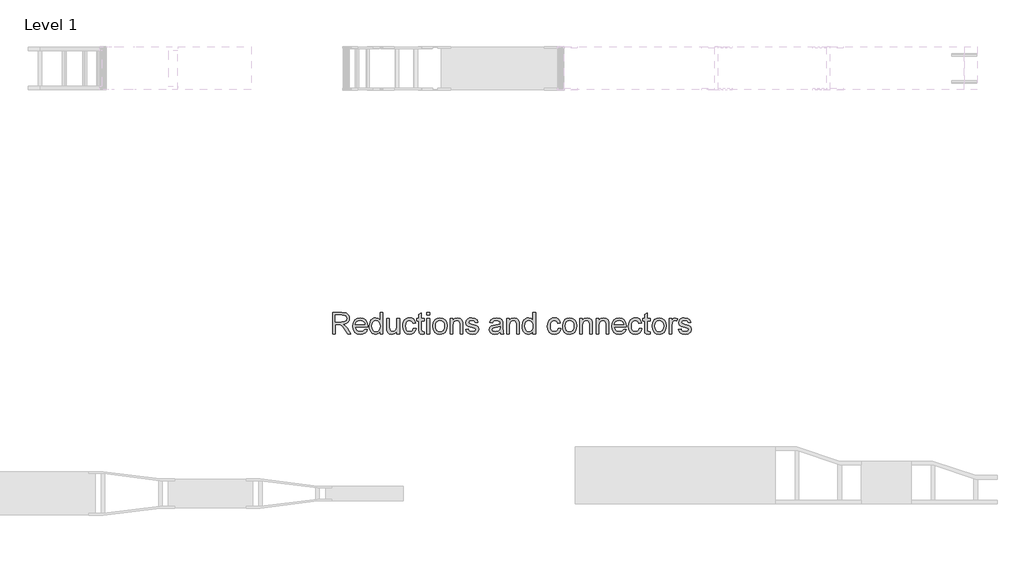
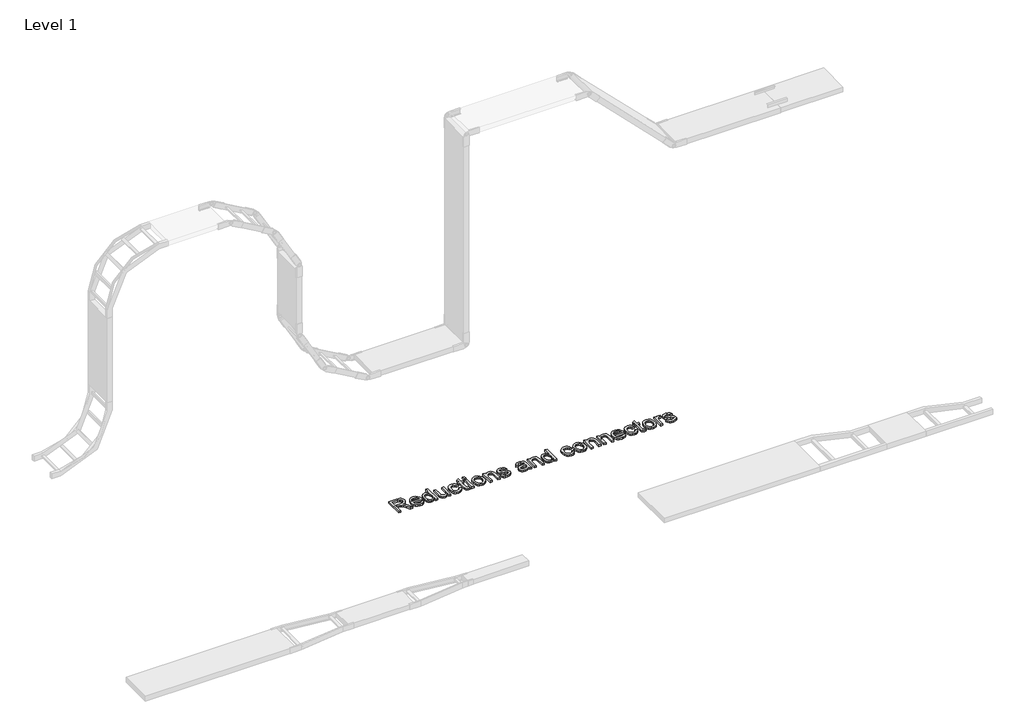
# One storey, part 38 of 106: 1 proxy.
"""IFC4 building model written with IfcOpenShell, lengths in millimetres."""

from ifc_helpers import new_model, si_unit, origin, origin_with_axes, place, context, project, spatial, polyline, outline, extrude, element, save

model = new_model("IFC4")

# Units and contexts
model_context = context("Model", 3, world=origin())
ifc_project = project(units=[si_unit("LENGTHUNIT", "METRE", prefix="MILLI")], contexts=[model_context])

# Site, building, storey
site = spatial("IfcSite", under=ifc_project)
building = spatial("IfcBuilding", under=site)
storey = spatial("IfcBuildingStorey", under=building, Name="Level 1", Elevation=0.0)

# Proxy
placement = place(None, origin())
element("IfcBuildingElementProxy", 1, Name="150mm Arial 2", ObjectType="150mm Arial 2", at=placement, inside=storey, context=model_context, shape_type="SweptSolid", body=[
    extrude(outline(polyline([(28768.5420892, 22747.8476348), (28768.5420892, 22898.5321), (28833.4732613, 22898.5321), (28863.6211908, 22894.467004), (28872.9010141, 22888.8384094), (28880.1023042, 22880.0828179), (28884.7238218, 22869.2257006), (28886.2643276, 22857.2925283), (28883.7121463, 22842.4484898), (28876.0556023, 22830.1428371), (28863.0647693, 22821.1205312), (28844.5097212, 22816.1265331), (28855.2150872, 22808.0699174), (28870.48219, 22788.6825362), (28895.6085303, 22747.8476348), (28873.7195516, 22747.8476348), (28854.1114412, 22779.0808162), (28839.9479844, 22799.7557843), (28829.9967765, 22809.5230513), (28821.0388499, 22813.1099007), (28810.1127546, 22813.7720883), (28787.3776473, 22813.7720883), (28787.3776473, 22747.8476348), (28768.5420892, 22747.8476348)]), holes=[polyline([(28787.3776473, 22832.6076465), (28829.536924, 22832.6076465), (28851.0396266, 22835.2747909), (28863.2533088, 22843.8096532), (28867.4287695, 22856.5935526), (28865.4376082, 22865.7814054), (28859.4641243, 22873.1850305), (28849.186421, 22878.068664), (28834.2826017, 22879.6965419), (28787.3776473, 22879.6965419), (28787.3776473, 22832.6076465)])]), origin_with_axes(), (0.0, 0.0, 1.0), 15.0),
    extrude(outline(polyline([(28994.3480578, 22780.8098615), (29012.815734, 22778.4554168), (29006.1616684, 22764.5402803), (28995.5436743, 22754.1384169), (28981.200875, 22747.6544967), (28963.3723938, 22745.49319), (28941.2718829, 22749.2225937), (28924.2665377, 22760.4108049), (28913.4232159, 22778.3312566), (28909.8087753, 22802.2573819), (28913.4600041, 22826.988249), (28924.4136905, 22845.4835163), (28941.1891095, 22857.0166168), (28962.305536, 22860.8609837), (28982.7643735, 22857.0258139), (28999.1121296, 22845.5203045), (29009.8312913, 22827.0618254), (29013.4043452, 22802.3677465), (29013.2939806, 22797.2909749), (28928.6443335, 22797.2909749), (28931.9046876, 22783.1918975), (28939.4784582, 22772.8268223), (28950.409152, 22766.4532667), (28963.7402758, 22764.3287482), (28982.207952, 22768.2650855), (28994.3480578, 22780.8098615)]), holes=[polyline([(28928.6443335, 22816.1265331), (28994.568787, 22816.1265331), (28992.0212042, 22826.0777411), (28987.0272061, 22833.1962577), (28976.0459285, 22839.8181336), (28962.2319596, 22842.0254255), (28949.5354323, 22840.2641905), (28939.0369998, 22834.9804853), (28931.7391407, 22826.7445272), (28928.6443335, 22816.1265331)])]), origin_with_axes(), (0.0, 0.0, 1.0), 15.0),
    extrude(outline(polyline([(29100.5188016, 22747.8476348), (29100.5188016, 22765.6163351), (29088.056799, 22750.5239763), (29070.8307246, 22745.49319), (29058.6538306, 22747.3142059), (29047.5070061, 22752.7772535), (29038.0708329, 22761.5006553), (29031.0258927, 22773.1027337), (29026.6388999, 22787.1144392), (29025.176569, 22803.0667223), (29030.5660402, 22833.0491049), (29037.2982807, 22844.9408904), (29046.7160598, 22853.6872848), (29058.1066061, 22859.067559), (29070.7571482, 22860.8609837), (29088.1211784, 22855.7290299), (29100.5188016, 22842.3933075), (29100.5188016, 22898.5321), (29119.3543598, 22898.5321), (29119.3543598, 22747.8476348), (29100.5188016, 22747.8476348)]), holes=[polyline([(29044.0121271, 22803.1402987), (29046.1366457, 22786.1027638), (29052.5102012, 22773.9856505), (29061.7716305, 22766.7429738), (29072.55977, 22764.3287482), (29083.343311, 22766.6326092), (29092.3702154, 22773.5441921), (29098.4816551, 22785.1922558), (29100.5188016, 22801.7055589), (29098.4448669, 22819.7593678), (29092.2230626, 22832.2765527), (29082.9662319, 22839.5882073), (29071.7872178, 22842.0254255), (29060.8887137, 22839.6847764), (29051.9583782, 22832.6628288), (29045.9986899, 22820.6008979), (29044.0121271, 22803.1402987)])]), origin_with_axes(), (0.0, 0.0, 1.0), 15.0),
    extrude(outline(polyline([(29218.2410401, 22747.8476348), (29218.2410401, 22766.8671339), (29203.4889721, 22750.836676), (29184.2487437, 22745.49319), (29166.5352256, 22749.2455864), (29154.3215434, 22758.6633654), (29148.711343, 22772.5325167), (29147.607697, 22790.0436996), (29147.607697, 22858.5065389), (29166.4432551, 22858.5065389), (29166.4432551, 22798.9096557), (29167.5836893, 22779.7062156), (29175.0332997, 22768.4306324), (29189.0679978, 22764.3287482), (29204.7949531, 22768.5226029), (29215.1876195, 22779.9453389), (29218.2410401, 22800.9330067), (29218.2410401, 22858.5065389), (29237.0765982, 22858.5065389), (29237.0765982, 22747.8476348), (29218.2410401, 22747.8476348)])), origin_with_axes(), (0.0, 0.0, 1.0), 15.0),
    extrude(outline(polyline([(29333.6088338, 22787.8731959), (29352.4443919, 22785.5187511), (29347.1928764, 22768.7663247), (29337.3244419, 22756.1065856), (29323.7679904, 22748.1465389), (29307.4524239, 22745.49319), (29287.4166507, 22749.1950026), (29271.7494763, 22760.3004403), (29261.6373199, 22778.3220596), (29258.2666011, 22802.7724167), (29259.7059394, 22819.5340401), (29264.0239544, 22834.0607803), (29271.2896238, 22845.7916175), (29281.5719255, 22854.1655314), (29293.8729797, 22859.1871206), (29307.1949065, 22860.8609837), (29323.1104013, 22858.5617212), (29335.8345198, 22851.6639338), (29344.9625918, 22840.5355035), (29350.0899471, 22825.5443122), (29331.254389, 22823.1898674), (29322.5171916, 22837.2981419), (29307.3420593, 22842.0254255), (29295.1697638, 22839.6985719), (29285.5082629, 22832.7180111), (29279.2036852, 22820.7066639), (29277.1021593, 22803.2874515), (29279.1576999, 22785.6337142), (29285.3243219, 22773.5809803), (29294.8110788, 22766.6418062), (29306.8270245, 22764.3287482), (29316.5804959, 22765.772685), (29324.5773308, 22770.1044955), (29330.3944648, 22777.4345442), (29333.6088338, 22787.8731959)])), origin_with_axes(), (0.0, 0.0, 1.0), 15.0),
    extrude(outline(polyline([(29408.9510664, 22763.556196), (29411.3055111, 22747.2958118), (29397.2156307, 22745.49319), (29381.4334931, 22748.620187), (29373.5608184, 22756.8239555), (29371.2799501, 22778.1978994), (29371.2799501, 22839.6709808), (29357.1532814, 22839.6709808), (29357.1532814, 22858.5065389), (29371.2799501, 22858.5065389), (29371.2799501, 22885.3987128), (29390.1155082, 22896.4719608), (29390.1155082, 22858.5065389), (29408.9510664, 22858.5065389), (29408.9510664, 22839.6709808), (29390.1155082, 22839.6709808), (29390.1155082, 22778.7497224), (29391.1087896, 22769.0376377), (29394.3277571, 22765.597941), (29400.7472979, 22764.3287482), (29408.9510664, 22763.556196)])), origin_with_axes(), (0.0, 0.0, 1.0), 15.0),
    extrude(outline(polyline([(29427.7866245, 22879.6965419), (29427.7866245, 22898.5321), (29446.6221827, 22898.5321), (29446.6221827, 22879.6965419), (29427.7866245, 22879.6965419)])), origin_with_axes(), (0.0, 0.0, 1.0), 15.0),
    extrude(outline(polyline([(29427.7866245, 22747.8476348), (29427.7866245, 22858.5065389), (29446.6221827, 22858.5065389), (29446.6221827, 22747.8476348), (29427.7866245, 22747.8476348)])), origin_with_axes(), (0.0, 0.0, 1.0), 15.0),
    extrude(outline(polyline([(29470.1666304, 22803.1770869), (29474.2409235, 22829.8577286), (29486.4638027, 22848.6105133), (29501.5653587, 22857.7983661), (29519.6467587, 22860.8609837), (29539.4342115, 22857.13158), (29555.2393417, 22845.9433688), (29565.5998184, 22828.179267), (29569.0533107, 22804.7221912), (29567.5266004, 22785.693495), (29562.9464695, 22771.2081415), (29555.4462754, 22760.3602211), (29545.1593751, 22752.2438246), (29532.9410943, 22747.1808487), (29519.6467587, 22745.49319), (29499.6201826, 22749.2087982), (29483.8334465, 22760.3556226), (29473.5833344, 22778.492205), (29470.1666304, 22803.1770869)]), holes=[polyline([(29489.0021885, 22803.2138751), (29491.1818893, 22786.1671431), (29497.7209918, 22774.0224387), (29507.5618352, 22766.7521708), (29519.6467587, 22764.3287482), (29531.6765, 22766.7659664), (29541.4989492, 22774.077621), (29548.0380517, 22786.3832738), (29550.2177525, 22803.8024862), (29548.0242561, 22820.3525775), (29541.4437669, 22832.331735), (29531.6075221, 22839.6020029), (29519.6467587, 22842.0254255), (29507.5618352, 22839.6112), (29497.7209918, 22832.3685232), (29491.1818893, 22820.25141), (29489.0021885, 22803.2138751)])]), origin_with_axes(), (0.0, 0.0, 1.0), 15.0),
    extrude(outline(polyline([(29590.2433136, 22747.8476348), (29590.2433136, 22858.5065389), (29609.0788717, 22858.5065389), (29609.0788717, 22843.0554951), (29623.4814519, 22856.4096116), (29643.1447445, 22860.8609837), (29660.931839, 22857.2741342), (29673.0719448, 22847.8563552), (29678.7189334, 22834.0055981), (29679.7122148, 22815.7954393), (29679.7122148, 22747.8476348), (29660.8766567, 22747.8476348), (29660.8766567, 22813.2570535), (29658.7061529, 22829.9221079), (29651.0358133, 22838.7328817), (29638.1047612, 22842.0254255), (29627.0728998, 22840.1768185), (29617.6689163, 22834.6309974), (29611.2263829, 22823.9164343), (29609.0788717, 22806.5616012), (29609.0788717, 22747.8476348), (29590.2433136, 22747.8476348)])), origin_with_axes(), (0.0, 0.0, 1.0), 15.0),
    extrude(outline(polyline([(29698.547773, 22780.8098615), (29717.3833311, 22783.1643063), (29720.3539782, 22775.1076906), (29726.1021344, 22769.1847905), (29746.0781267, 22764.3287482), (29765.2815669, 22768.7801203), (29771.5355608, 22779.227969), (29769.9628653, 22784.028829), (29765.2447787, 22787.6892549), (29745.8573975, 22793.060332), (29717.4936957, 22802.275776), (29705.1144666, 22813.0363243), (29700.9022177, 22828.2298507), (29704.2867321, 22842.2645488), (29713.5205702, 22852.988309), (29725.4951291, 22858.5617212), (29741.700331, 22860.8609837), (29764.6193793, 22857.1637696), (29779.1875063, 22847.1573794), (29785.6622294, 22830.2532017), (29766.8266713, 22827.8987569), (29759.7449429, 22838.2914233), (29743.171859, 22842.0254255), (29725.1456412, 22838.4569702), (29719.7377759, 22830.1428371), (29721.9818561, 22824.6613954), (29729.0084022, 22820.5043288), (29745.2319982, 22816.4944151), (29772.8783301, 22807.628459), (29785.7174117, 22797.5852805), (29790.371119, 22781.2145317), (29784.9080713, 22763.188314), (29769.1443278, 22750.1101091), (29745.8206093, 22745.49319), (29726.8287013, 22747.7188761), (29712.9687472, 22754.3959343), (29703.716515, 22765.4507882), (29698.547773, 22780.8098615)])), origin_with_axes(), (0.0, 0.0, 1.0), 15.0),
    extrude(outline(polyline([(29941.0555842, 22761.9743034), (29922.7902431, 22749.2087982), (29902.6119157, 22745.49319), (29886.8711648, 22747.7280731), (29875.2598894, 22754.4327225), (29868.099986, 22764.6138567), (29865.7133516, 22777.2781944), (29869.3185951, 22792.1774152), (29878.7915565, 22802.9931459), (29891.980126, 22809.1735634), (29908.2772984, 22812.0062547), (29940.9452196, 22818.4809779), (29941.0555842, 22822.6748326), (29939.7588002, 22831.0809362), (29935.8684481, 22836.580772), (29927.1680389, 22840.6642622), (29915.0463271, 22842.0254255), (29895.9900398, 22838.4017879), (29886.9033545, 22825.5443122), (29868.0677963, 22827.8987569), (29876.2163825, 22846.2928567), (29892.6239195, 22857.0717991), (29917.4743483, 22860.8609837), (29940.3014261, 22857.5132575), (29953.19569, 22849.107154), (29958.9714374, 22836.3232546), (29959.8911423, 22819.8421412), (29959.8911423, 22796.4080581), (29960.8476355, 22763.6849547), (29964.6000319, 22747.8476348), (29945.7644737, 22747.8476348), (29941.0555842, 22761.9743034)]), holes=[polyline([(29941.0555842, 22799.6454197), (29910.6685314, 22793.8696724), (29894.4633295, 22790.8162518), (29887.1240837, 22785.8498449), (29884.5489097, 22778.6025696), (29890.1591102, 22768.4122383), (29906.6218294, 22764.3287482), (29925.6781168, 22768.8353026), (29937.9653754, 22779.7430038), (29940.9452196, 22794.3111308), (29941.0555842, 22799.6454197)])]), origin_with_axes(), (0.0, 0.0, 1.0), 15.0),
    extrude(outline(polyline([(29985.7900348, 22747.8476348), (29985.7900348, 22858.5065389), (30004.625593, 22858.5065389), (30004.625593, 22843.0554951), (30019.0281731, 22856.4096116), (30038.6914657, 22860.8609837), (30056.4785602, 22857.2741342), (30068.618666, 22847.8563552), (30074.2656546, 22834.0055981), (30075.258936, 22815.7954393), (30075.258936, 22747.8476348), (30056.4233779, 22747.8476348), (30056.4233779, 22813.2570535), (30054.2528741, 22829.9221079), (30046.5825345, 22838.7328817), (30033.6514824, 22842.0254255), (30022.619621, 22840.1768185), (30013.2156375, 22834.6309974), (30006.7731041, 22823.9164343), (30004.625593, 22806.5616012), (30004.625593, 22747.8476348), (29985.7900348, 22747.8476348)])), origin_with_axes(), (0.0, 0.0, 1.0), 15.0),
    extrude(outline(polyline([(30169.4367268, 22747.8476348), (30169.4367268, 22765.6163351), (30156.9747242, 22750.5239763), (30139.7486498, 22745.49319), (30127.5717557, 22747.3142059), (30116.4249313, 22752.7772535), (30106.9887581, 22761.5006553), (30099.9438179, 22773.1027337), (30095.5568251, 22787.1144392), (30094.0944942, 22803.0667223), (30099.4839654, 22833.0491049), (30106.2162059, 22844.9408904), (30115.633985, 22853.6872848), (30127.0245313, 22859.067559), (30139.6750734, 22860.8609837), (30157.0391036, 22855.7290299), (30169.4367268, 22842.3933075), (30169.4367268, 22898.5321), (30188.2722849, 22898.5321), (30188.2722849, 22747.8476348), (30169.4367268, 22747.8476348)]), holes=[polyline([(30112.9300523, 22803.1402987), (30115.0545709, 22786.1027638), (30121.4281264, 22773.9856505), (30130.6895557, 22766.7429738), (30141.4776952, 22764.3287482), (30152.2612361, 22766.6326092), (30161.2881406, 22773.5441921), (30167.3995802, 22785.1922558), (30169.4367268, 22801.7055589), (30167.362792, 22819.7593678), (30161.1409878, 22832.2765527), (30151.8841571, 22839.5882073), (30140.705143, 22842.0254255), (30129.8066389, 22839.6847764), (30120.8763034, 22832.6628288), (30114.9166151, 22820.6008979), (30112.9300523, 22803.1402987)])]), origin_with_axes(), (0.0, 0.0, 1.0), 15.0),
    extrude(outline(polyline([(30346.0200845, 22787.8731959), (30364.8556426, 22785.5187511), (30359.6041272, 22768.7663247), (30349.7356926, 22756.1065856), (30336.1792411, 22748.1465389), (30319.8636746, 22745.49319), (30299.8279015, 22749.1950026), (30284.160727, 22760.3004403), (30274.0485706, 22778.3220596), (30270.6778519, 22802.7724167), (30272.1171902, 22819.5340401), (30276.4352051, 22834.0607803), (30283.7008745, 22845.7916175), (30293.9831763, 22854.1655314), (30306.2842305, 22859.1871206), (30319.6061572, 22860.8609837), (30335.521652, 22858.5617212), (30348.2457706, 22851.6639338), (30357.3738426, 22840.5355035), (30362.5011979, 22825.5443122), (30343.6656397, 22823.1898674), (30334.9284423, 22837.2981419), (30319.75331, 22842.0254255), (30307.5810145, 22839.6985719), (30297.9195136, 22832.7180111), (30291.6149359, 22820.7066639), (30289.51341, 22803.2874515), (30291.5689507, 22785.6337142), (30297.7355726, 22773.5809803), (30307.2223296, 22766.6418062), (30319.2382752, 22764.3287482), (30328.9917466, 22765.772685), (30336.9885815, 22770.1044955), (30342.8057155, 22777.4345442), (30346.0200845, 22787.8731959)])), origin_with_axes(), (0.0, 0.0, 1.0), 15.0),
    extrude(outline(polyline([(30376.6278665, 22803.1770869), (30380.7021596, 22829.8577286), (30392.9250389, 22848.6105133), (30408.0265948, 22857.7983661), (30426.1079948, 22860.8609837), (30445.8954476, 22857.13158), (30461.7005779, 22845.9433688), (30472.0610546, 22828.179267), (30475.5145468, 22804.7221912), (30473.9878365, 22785.693495), (30469.4077057, 22771.2081415), (30461.9075115, 22760.3602211), (30451.6206112, 22752.2438246), (30439.4023304, 22747.1808487), (30426.1079948, 22745.49319), (30406.0814187, 22749.2087982), (30390.2946826, 22760.3556226), (30380.0445705, 22778.492205), (30376.6278665, 22803.1770869)]), holes=[polyline([(30395.4634246, 22803.2138751), (30397.6431255, 22786.1671431), (30404.1822279, 22774.0224387), (30414.0230713, 22766.7521708), (30426.1079948, 22764.3287482), (30438.1377361, 22766.7659664), (30447.9601853, 22774.077621), (30454.4992878, 22786.3832738), (30456.6789886, 22803.8024862), (30454.4854922, 22820.3525775), (30447.905003, 22832.331735), (30438.0687582, 22839.6020029), (30426.1079948, 22842.0254255), (30414.0230713, 22839.6112), (30404.1822279, 22832.3685232), (30397.6431255, 22820.25141), (30395.4634246, 22803.2138751)])]), origin_with_axes(), (0.0, 0.0, 1.0), 15.0),
    extrude(outline(polyline([(30496.7045497, 22747.8476348), (30496.7045497, 22858.5065389), (30515.5401079, 22858.5065389), (30515.5401079, 22843.0554951), (30529.942688, 22856.4096116), (30549.6059806, 22860.8609837), (30567.3930751, 22857.2741342), (30579.5331809, 22847.8563552), (30585.1801695, 22834.0055981), (30586.1734509, 22815.7954393), (30586.1734509, 22747.8476348), (30567.3378928, 22747.8476348), (30567.3378928, 22813.2570535), (30565.167389, 22829.9221079), (30557.4970494, 22838.7328817), (30544.5659973, 22842.0254255), (30533.5341359, 22840.1768185), (30524.1301524, 22834.6309974), (30517.687619, 22823.9164343), (30515.5401079, 22806.5616012), (30515.5401079, 22747.8476348), (30496.7045497, 22747.8476348)])), origin_with_axes(), (0.0, 0.0, 1.0), 15.0),
    extrude(outline(polyline([(30612.0723434, 22747.8476348), (30612.0723434, 22858.5065389), (30630.9079015, 22858.5065389), (30630.9079015, 22843.0554951), (30645.3104817, 22856.4096116), (30664.9737743, 22860.8609837), (30682.7608688, 22857.2741342), (30694.9009746, 22847.8563552), (30700.5479632, 22834.0055981), (30701.5412446, 22815.7954393), (30701.5412446, 22747.8476348), (30682.7056865, 22747.8476348), (30682.7056865, 22813.2570535), (30680.5351827, 22829.9221079), (30672.8648431, 22838.7328817), (30659.933791, 22842.0254255), (30648.9019296, 22840.1768185), (30639.4979461, 22834.6309974), (30633.0554127, 22823.9164343), (30630.9079015, 22806.5616012), (30630.9079015, 22747.8476348), (30612.0723434, 22747.8476348)])), origin_with_axes(), (0.0, 0.0, 1.0), 15.0),
    extrude(outline(polyline([(30804.9160853, 22780.8098615), (30823.3837614, 22778.4554168), (30816.7296958, 22764.5402803), (30806.1117017, 22754.1384169), (30791.7689025, 22747.6544967), (30773.9404213, 22745.49319), (30751.8399104, 22749.2225937), (30734.8345652, 22760.4108049), (30723.9912434, 22778.3312566), (30720.3768028, 22802.2573819), (30724.0280316, 22826.988249), (30734.981718, 22845.4835163), (30751.757137, 22857.0166168), (30772.8735635, 22860.8609837), (30793.3324009, 22857.0258139), (30809.6801571, 22845.5203045), (30820.3993187, 22827.0618254), (30823.9723726, 22802.3677465), (30823.862008, 22797.2909749), (30739.2123609, 22797.2909749), (30742.4727151, 22783.1918975), (30750.0464857, 22772.8268223), (30760.9771795, 22766.4532667), (30774.3083033, 22764.3287482), (30792.7759794, 22768.2650855), (30804.9160853, 22780.8098615)]), holes=[polyline([(30739.2123609, 22816.1265331), (30805.1368145, 22816.1265331), (30802.5892316, 22826.0777411), (30797.5952336, 22833.1962577), (30786.613956, 22839.8181336), (30772.7999871, 22842.0254255), (30760.1034597, 22840.2641905), (30749.6050273, 22834.9804853), (30742.3071682, 22826.7445272), (30739.2123609, 22816.1265331)])]), origin_with_axes(), (0.0, 0.0, 1.0), 15.0),
    extrude(outline(polyline([(30913.4412738, 22787.8731959), (30932.276832, 22785.5187511), (30927.0253165, 22768.7663247), (30917.156882, 22756.1065856), (30903.6004305, 22748.1465389), (30887.284864, 22745.49319), (30867.2490908, 22749.1950026), (30851.5819164, 22760.3004403), (30841.46976, 22778.3220596), (30838.0990412, 22802.7724167), (30839.5383795, 22819.5340401), (30843.8563945, 22834.0607803), (30851.1220639, 22845.7916175), (30861.4043656, 22854.1655314), (30873.7054198, 22859.1871206), (30887.0273466, 22860.8609837), (30902.9428414, 22858.5617212), (30915.6669599, 22851.6639338), (30924.7950319, 22840.5355035), (30929.9223872, 22825.5443122), (30911.0868291, 22823.1898674), (30902.3496317, 22837.2981419), (30887.1744994, 22842.0254255), (30875.0022039, 22839.6985719), (30865.340703, 22832.7180111), (30859.0361253, 22820.7066639), (30856.9345994, 22803.2874515), (30858.99014, 22785.6337142), (30865.156762, 22773.5809803), (30874.6435189, 22766.6418062), (30886.6594646, 22764.3287482), (30896.412936, 22765.772685), (30904.4097709, 22770.1044955), (30910.2269049, 22777.4345442), (30913.4412738, 22787.8731959)])), origin_with_axes(), (0.0, 0.0, 1.0), 15.0),
    extrude(outline(polyline([(30988.7835065, 22763.556196), (30991.1379512, 22747.2958118), (30977.0480708, 22745.49319), (30961.2659332, 22748.620187), (30953.3932585, 22756.8239555), (30951.1123901, 22778.1978994), (30951.1123901, 22839.6709808), (30936.9857215, 22839.6709808), (30936.9857215, 22858.5065389), (30951.1123901, 22858.5065389), (30951.1123901, 22885.3987128), (30969.9479483, 22896.4719608), (30969.9479483, 22858.5065389), (30988.7835065, 22858.5065389), (30988.7835065, 22839.6709808), (30969.9479483, 22839.6709808), (30969.9479483, 22778.7497224), (30970.9412297, 22769.0376377), (30974.1601971, 22765.597941), (30980.579738, 22764.3287482), (30988.7835065, 22763.556196)])), origin_with_axes(), (0.0, 0.0, 1.0), 15.0),
    extrude(outline(polyline([(31002.9101751, 22803.1770869), (31006.9844682, 22829.8577286), (31019.2073475, 22848.6105133), (31034.3089034, 22857.7983661), (31052.3903034, 22860.8609837), (31072.1777562, 22857.13158), (31087.9828865, 22845.9433688), (31098.3433631, 22828.179267), (31101.7968554, 22804.7221912), (31100.2701451, 22785.693495), (31095.6900143, 22771.2081415), (31088.1898201, 22760.3602211), (31077.9029198, 22752.2438246), (31065.684639, 22747.1808487), (31052.3903034, 22745.49319), (31032.3637273, 22749.2087982), (31016.5769912, 22760.3556226), (31006.3268791, 22778.492205), (31002.9101751, 22803.1770869)]), holes=[polyline([(31021.7457332, 22803.2138751), (31023.925434, 22786.1671431), (31030.4645365, 22774.0224387), (31040.3053799, 22766.7521708), (31052.3903034, 22764.3287482), (31064.4200447, 22766.7659664), (31074.2424939, 22774.077621), (31080.7815964, 22786.3832738), (31082.9612972, 22803.8024862), (31080.7678008, 22820.3525775), (31074.1873116, 22832.331735), (31064.3510668, 22839.6020029), (31052.3903034, 22842.0254255), (31040.3053799, 22839.6112), (31030.4645365, 22832.3685232), (31023.925434, 22820.25141), (31021.7457332, 22803.2138751)])]), origin_with_axes(), (0.0, 0.0, 1.0), 15.0),
    extrude(outline(polyline([(31122.9868583, 22747.8476348), (31122.9868583, 22858.5065389), (31139.4679717, 22858.5065389), (31139.4679717, 22842.1357901), (31151.1666191, 22857.2189519), (31162.938843, 22860.8609837), (31181.8479775, 22855.0484482), (31175.5571954, 22838.1626646), (31162.3134436, 22842.0254255), (31151.6632598, 22838.3098174), (31144.875837, 22828.0091215), (31141.8224164, 22806.0097782), (31141.8224164, 22747.8476348), (31122.9868583, 22747.8476348)])), origin_with_axes(), (0.0, 0.0, 1.0), 15.0),
    extrude(outline(polyline([(31186.5568671, 22780.8098615), (31205.3924252, 22783.1643063), (31208.3630723, 22775.1076906), (31214.1112285, 22769.1847905), (31234.0872208, 22764.3287482), (31253.290661, 22768.7801203), (31259.5446549, 22779.227969), (31257.9719594, 22784.028829), (31253.2538728, 22787.6892549), (31233.8664916, 22793.060332), (31205.5027898, 22802.275776), (31193.1235607, 22813.0363243), (31188.9113118, 22828.2298507), (31192.2958262, 22842.2645488), (31201.5296643, 22852.988309), (31213.5042232, 22858.5617212), (31229.7094251, 22860.8609837), (31252.6284734, 22857.1637696), (31267.1966004, 22847.1573794), (31273.6713235, 22830.2532017), (31254.8357654, 22827.8987569), (31247.754037, 22838.2914233), (31231.1809531, 22842.0254255), (31213.1547353, 22838.4569702), (31207.74687, 22830.1428371), (31209.9909502, 22824.6613954), (31217.0174963, 22820.5043288), (31233.2410922, 22816.4944151), (31260.8874242, 22807.628459), (31273.7265058, 22797.5852805), (31278.3802131, 22781.2145317), (31272.9171654, 22763.188314), (31257.1534219, 22750.1101091), (31233.8297034, 22745.49319), (31214.8377954, 22747.7188761), (31200.9778413, 22754.3959343), (31191.7256091, 22765.4507882), (31186.5568671, 22780.8098615)])), origin_with_axes(), (0.0, 0.0, 1.0), 15.0),
])

save(model, "model.ifc")
